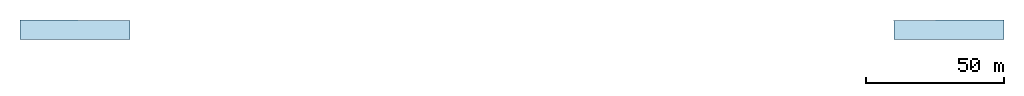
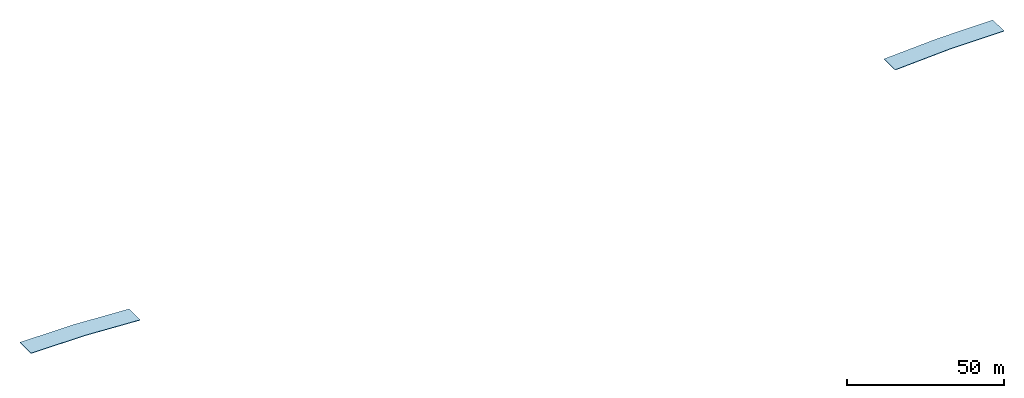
# One storey: 1 slab.
"""IFC2X3 building model written with IfcOpenShell, lengths in millimetres."""

from ifc_helpers import new_model, entity, si_unit, converted_unit, derived_unit, direction, frame, frame_2d, origin, place, context, subcontext, project, spatial, rectangle, extrude, type_object, element, save


model = new_model("IFC2X3")

# Units and contexts
model_context = context("Model", 3, precision=0.01, world=origin(), true_north=direction((6.12303176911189e-17, 1.0)))
body_context = subcontext(model_context, "Body", "Model", "MODEL_VIEW")
ifc_project = project(units=[si_unit("LENGTHUNIT", "METRE", prefix="MILLI"), si_unit("AREAUNIT", "SQUARE_METRE"), si_unit("VOLUMEUNIT", "CUBIC_METRE"), converted_unit("PLANEANGLEUNIT", "DEGREE", entity("IfcRatioMeasure", 0.0174532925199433), si_unit("PLANEANGLEUNIT", "RADIAN"), dimensions=[0, 0, 0, 0, 0, 0, 0]), si_unit("MASSUNIT", "GRAM", prefix="KILO"), derived_unit("MASSDENSITYUNIT", [(si_unit("MASSUNIT", "GRAM", prefix="KILO"), 1), (si_unit("LENGTHUNIT", "METRE"), -3)]), si_unit("TIMEUNIT", "SECOND"), si_unit("FREQUENCYUNIT", "HERTZ"), si_unit("THERMODYNAMICTEMPERATUREUNIT", "DEGREE_CELSIUS"), derived_unit("THERMALTRANSMITTANCEUNIT", [(si_unit("MASSUNIT", "GRAM", prefix="KILO"), 1), (si_unit("THERMODYNAMICTEMPERATUREUNIT", "KELVIN"), -1), (si_unit("TIMEUNIT", "SECOND"), -3)]), derived_unit("VOLUMETRICFLOWRATEUNIT", [(si_unit("LENGTHUNIT", "METRE"), 3), (si_unit("TIMEUNIT", "SECOND"), -1)]), si_unit("ELECTRICCURRENTUNIT", "AMPERE"), si_unit("ELECTRICVOLTAGEUNIT", "VOLT"), si_unit("POWERUNIT", "WATT"), si_unit("FORCEUNIT", "NEWTON", prefix="KILO"), si_unit("ILLUMINANCEUNIT", "LUX"), si_unit("LUMINOUSFLUXUNIT", "LUMEN"), si_unit("LUMINOUSINTENSITYUNIT", "CANDELA"), derived_unit("USERDEFINED", [(si_unit("MASSUNIT", "GRAM", prefix="KILO"), -1), (si_unit("LENGTHUNIT", "METRE"), -2), (si_unit("TIMEUNIT", "SECOND"), 3), (si_unit("LUMINOUSFLUXUNIT", "LUMEN"), 1)]), derived_unit("LINEARVELOCITYUNIT", [(si_unit("LENGTHUNIT", "METRE"), 1), (si_unit("TIMEUNIT", "SECOND"), -1)]), si_unit("PRESSUREUNIT", "PASCAL"), derived_unit("USERDEFINED", [(si_unit("LENGTHUNIT", "METRE"), -2), (si_unit("MASSUNIT", "GRAM", prefix="KILO"), 1), (si_unit("TIMEUNIT", "SECOND"), -2)])], contexts=[model_context])

# Site, building, storey
site_placement = place(None, origin())
site = spatial("IfcSite", under=ifc_project, at=site_placement, Name="Default", CompositionType="ELEMENT")
building_placement = place(site_placement, origin())
building = spatial("IfcBuilding", under=site, at=building_placement, CompositionType="ELEMENT")
storey_placement = place(building_placement, frame((0.0, 0.0, 10800.0)))
storey = spatial("IfcBuildingStorey", under=building, at=storey_placement, Name="AP+10.800", CompositionType="ELEMENT", Elevation=10800.0)

# Slab
slab_type = type_object("IfcSlabType", Name="アスファルト", PredefinedType="FLOOR")
slab_placement = place(storey_placement, origin())
element("IfcSlab", 1, at=slab_placement, inside=storey, type_object=slab_type, Name="アスファルト:アスファルト", ObjectType="アスファルト:アスファルト", PredefinedType="FLOOR", context=body_context, shape_type="SweptSolid", body=[
    extrude(rectangle(XDim=200.000000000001, YDim=7000.0, at=frame_2d((-6.82121026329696e-13, -1.07291953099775e-12), x_axis=(0.0, 1.0))), frame((-148472.99710731, 4207.66558860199, 5663.12476611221), z_axis=(0.998748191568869, -0.00287823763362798, -0.0499376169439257), x_axis=(-0.00288183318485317, -0.999995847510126, 0.0)), (0.0, 0.0, 1.0), 20024.9843945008),
    extrude(rectangle(XDim=20000.0, YDim=7000.0, at=frame_2d((0.0, -4.54747350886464e-13), x_axis=(1.0, 0.0))), frame((-158467.961841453, 4236.46952926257, 5563.0), z_axis=(0.0, 0.0, 1.0), x_axis=(-0.999995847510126, 0.00288183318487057, 0.0)), (0.0, 0.0, 1.0), 200.0),
    extrude(rectangle(XDim=199.999999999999, YDim=7000.0, at=frame_2d((-6.82121026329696e-13, 4.33431068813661e-13), x_axis=(0.0, 1.0))), frame((148742.196564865, 4149.99479340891, 4673.02330233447), z_axis=(0.998770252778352, 0.00363778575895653, 0.0494443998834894), x_axis=(0.00364224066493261, -0.999993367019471, 0.0)), (0.0, 0.0, 1.0), 20024.4924042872),
    extrude(rectangle(XDim=20000.0, YDim=7000.0, at=frame_2d((0.0, 2.27373675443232e-13), x_axis=(1.0, 0.0))), frame((178737.053168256, 4259.24400451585, 5563.0), z_axis=(0.0, 0.0, 1.0), x_axis=(-0.999993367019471, -0.00364224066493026, 0.0)), (0.0, 0.0, 1.0), 199.999999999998),
])

save(model, "model.ifc")
